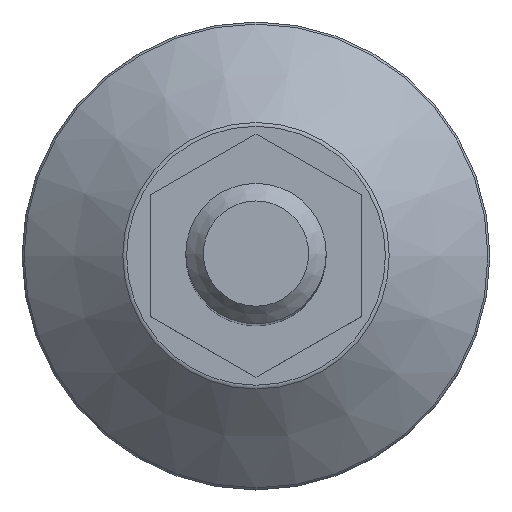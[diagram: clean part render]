
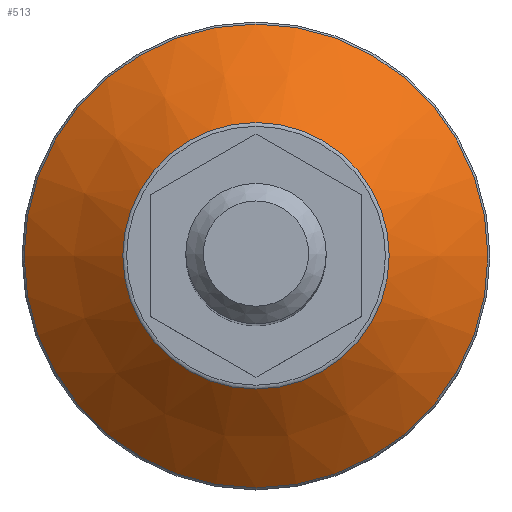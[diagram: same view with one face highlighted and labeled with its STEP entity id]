
A CAD part, top view. The second image highlights one B-rep face of the part: STEP entity #513.
In plain terms, the highlighted conical face has half-angle 49.399 degrees and reference radius 31.216 mm.
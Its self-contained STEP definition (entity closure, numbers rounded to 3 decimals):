
#84=CONICAL_SURFACE('',#566,31.216,49.399);
#94=FACE_BOUND('',#178,.T.);
#130=FACE_OUTER_BOUND('',#177,.T.);
#177=EDGE_LOOP('',(#400));
#178=EDGE_LOOP('',(#401));
#257=CIRCLE('',#564,22.781);
#259=CIRCLE('',#567,39.651);
#294=VERTEX_POINT('',#828);
#296=VERTEX_POINT('',#833);
#343=EDGE_CURVE('',#294,#294,#257,.T.);
#345=EDGE_CURVE('',#296,#296,#259,.T.);
#400=ORIENTED_EDGE('',*,*,#345,.T.);
#401=ORIENTED_EDGE('',*,*,#343,.F.);
#513=ADVANCED_FACE('',(#130,#94),#84,.T.);
#564=AXIS2_PLACEMENT_3D('',#829,#650,#651);
#566=AXIS2_PLACEMENT_3D('',#832,#654,#655);
#567=AXIS2_PLACEMENT_3D('',#834,#656,#657);
#650=DIRECTION('center_axis',(0.,0.,1.));
#651=DIRECTION('ref_axis',(1.,0.,0.));
#654=DIRECTION('center_axis',(0.,0.,-1.));
#655=DIRECTION('ref_axis',(1.,0.,0.));
#656=DIRECTION('center_axis',(0.,0.,1.));
#657=DIRECTION('ref_axis',(1.,0.,0.));
#828=CARTESIAN_POINT('',(-3.782,5.469,12.259));
#829=CARTESIAN_POINT('Origin',(18.999,5.469,12.259));
#832=CARTESIAN_POINT('Origin',(18.999,5.469,5.029));
#833=CARTESIAN_POINT('',(-20.652,5.469,-2.201));
#834=CARTESIAN_POINT('Origin',(18.999,5.469,-2.201));
